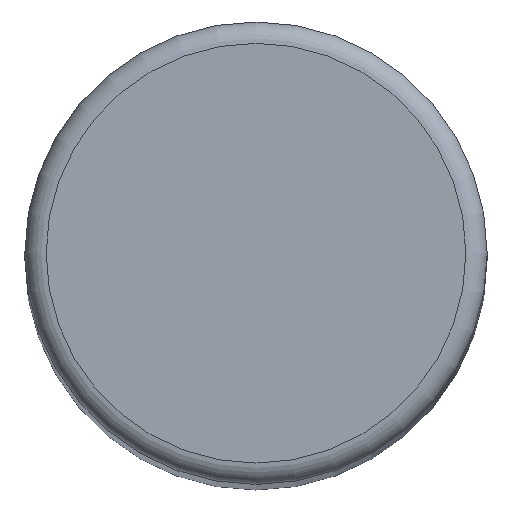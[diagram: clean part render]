
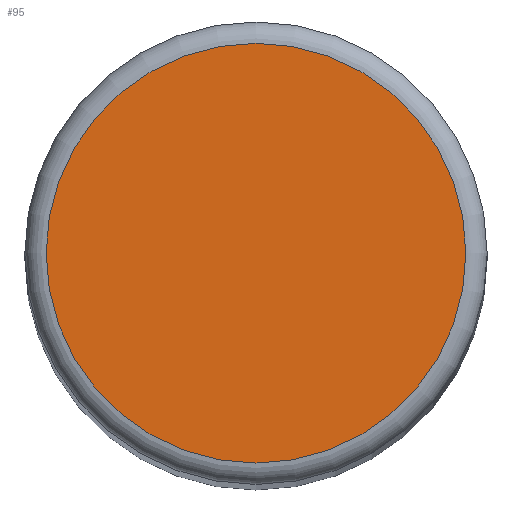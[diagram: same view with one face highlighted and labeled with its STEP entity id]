
A CAD part, top view. The second image highlights one B-rep face of the part: STEP entity #95.
In plain terms, the highlighted planar face has unit normal (0, 0, 1).
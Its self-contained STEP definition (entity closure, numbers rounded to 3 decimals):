
#89=PLANE('',#150);
#92=FACE_OUTER_BOUND('',#112,.T.);
#95=ADVANCED_FACE('',(#92),#89,.T.);
#112=EDGE_LOOP('',(#122));
#122=ORIENTED_EDGE('',*,*,#137,.T.);
#132=VERTEX_POINT('',#188);
#137=EDGE_CURVE('',#132,#132,#142,.T.);
#142=CIRCLE('',#149,2.95);
#149=AXIS2_PLACEMENT_3D('',#187,#165,#166);
#150=AXIS2_PLACEMENT_3D('',#189,#167,#168);
#165=DIRECTION('',(0.,0.,1.));
#166=DIRECTION('',(1.,0.,0.));
#167=DIRECTION('',(0.,0.,1.));
#168=DIRECTION('',(1.,0.,0.));
#187=CARTESIAN_POINT('',(0.,0.,45.));
#188=CARTESIAN_POINT('',(2.95,0.,45.));
#189=CARTESIAN_POINT('',(0.,0.,45.));
